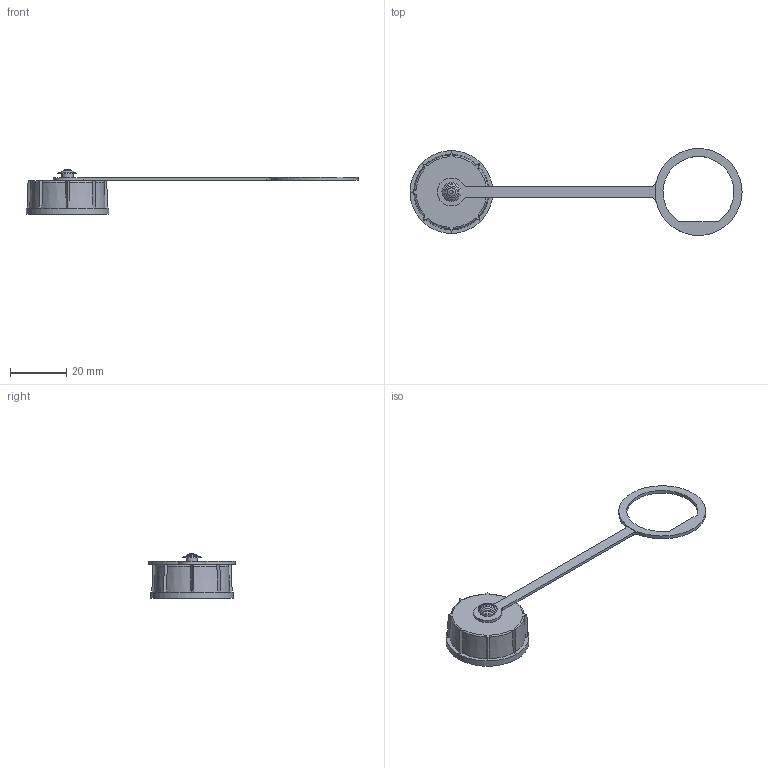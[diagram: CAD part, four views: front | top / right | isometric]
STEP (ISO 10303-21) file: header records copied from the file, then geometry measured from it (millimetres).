
FILE_DESCRIPTION(('FreeCAD Model'),'2;1');
FILE_NAME('Open CASCADE Shape Model','2026-04-21T12:39:43',(''),(''), 'Open CASCADE STEP processor 7.8','FreeCAD','Unknown');
FILE_SCHEMA(('AUTOMOTIVE_DESIGN { 1 0 10303 214 1 1 1 1 }'));
Length unit declared in the file: millimetre
Products named in the file (3): CDX_WCAP_MRB; CDX-WCAP-MRB_1; CDX-WCAP-MRB_2
Assembly tree (2 placements, depth 2):
  CDX_WCAP_MRB
    CDX-WCAP-MRB_1
    CDX-WCAP-MRB_2
Bounding box: 118.25 x 30.99 x 16 mm (x, y, z)
Volume: 4096.6 mm3; surface area: 4700.7 mm2
Topology: 2 solids, 2 shells, 61 faces, 171 edges, 118 vertices
Faces by surface type: plane 29, cone 13, cylinder 11, torus 8
Full cylindrical faces by diameter (mm): 4 x1, 5.2 x1, 23.8 x1, 29.5 x1
Entity records: 2320 total; most frequent: CARTESIAN_POINT 630, DIRECTION 348, ORIENTED_EDGE 342, EDGE_CURVE 171, AXIS2_PLACEMENT_3D 134, VERTEX_POINT 118, LINE 80, VECTOR 80
